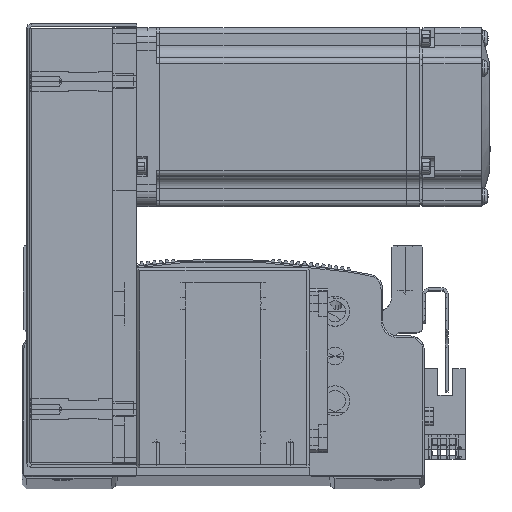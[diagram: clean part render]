
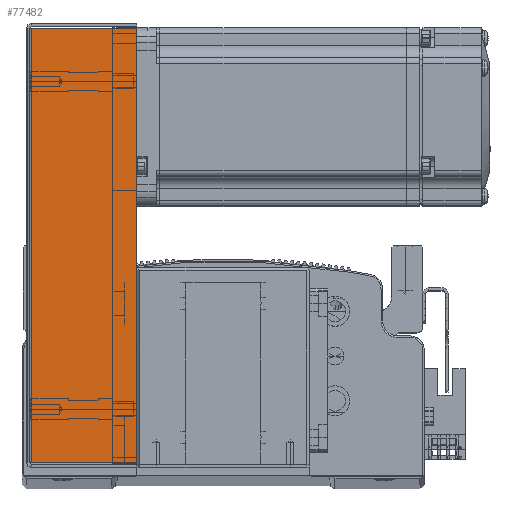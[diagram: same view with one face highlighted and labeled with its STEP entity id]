
A CAD part, top view. The second image highlights one B-rep face of the part: STEP entity #77482.
In plain terms, the highlighted planar face has unit normal (0, 0, 1).
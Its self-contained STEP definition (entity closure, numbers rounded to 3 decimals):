
#210 = VERTEX_POINT ( 'NONE', #5096 ) ;
#216 = VERTEX_POINT ( 'NONE', #5098 ) ;
#221 = VERTEX_POINT ( 'NONE', #5101 ) ;
#298 = VERTEX_POINT ( 'NONE', #1359 ) ;
#1359 = CARTESIAN_POINT ( 'NONE',  ( -72.793, 0.737, 34.5 ) ) ;
#1417 = AXIS2_PLACEMENT_3D ( 'NONE', #72044, #72088, #72075 ) ;
#5096 = CARTESIAN_POINT ( 'NONE',  ( -72.793, 36., 34.5 ) ) ;
#5098 = CARTESIAN_POINT ( 'NONE',  ( 72.793, 36., 34.5 ) ) ;
#5101 = CARTESIAN_POINT ( 'NONE',  ( 72.793, 0.737, 34.5 ) ) ;
#13717 = EDGE_CURVE ( 'NONE', #221, #216, #30329, .T. ) ;
#13745 = EDGE_CURVE ( 'NONE', #221, #298, #30364, .T. ) ;
#13759 = EDGE_CURVE ( 'NONE', #298, #210, #30363, .T. ) ;
#13785 = EDGE_CURVE ( 'NONE', #216, #210, #30311, .T. ) ;
#30309 = VECTOR ( 'NONE', #57393, 1000. ) ;
#30311 = LINE ( 'NONE', #35517, #30313 ) ;
#30313 = VECTOR ( 'NONE', #35469, 1000. ) ;
#30329 = LINE ( 'NONE', #59569, #30362 ) ;
#30345 = VECTOR ( 'NONE', #46177, 1000. ) ;
#30362 = VECTOR ( 'NONE', #59564, 1000. ) ;
#30363 = LINE ( 'NONE', #46176, #30345 ) ;
#30364 = LINE ( 'NONE', #57406, #30309 ) ;
#35469 = DIRECTION ( 'NONE',  ( -1., 0., 0. ) ) ;
#35517 = CARTESIAN_POINT ( 'NONE',  ( 0., 36., 34.5 ) ) ;
#46176 = CARTESIAN_POINT ( 'NONE',  ( -72.793, 0., 34.5 ) ) ;
#46177 = DIRECTION ( 'NONE',  ( 0., 1., 0. ) ) ;
#49724 = FACE_OUTER_BOUND ( 'NONE', #76771, .T. ) ;
#57393 = DIRECTION ( 'NONE',  ( -1., 0., 0. ) ) ;
#57406 = CARTESIAN_POINT ( 'NONE',  ( -74.5, 0.737, 34.5 ) ) ;
#59564 = DIRECTION ( 'NONE',  ( 0., 1., 0. ) ) ;
#59569 = CARTESIAN_POINT ( 'NONE',  ( 72.793, 0., 34.5 ) ) ;
#72014 = PLANE ( 'NONE',  #1417 ) ;
#72044 = CARTESIAN_POINT ( 'NONE',  ( 0., 0., 34.5 ) ) ;
#72075 = DIRECTION ( 'NONE',  ( -1., 0., 0. ) ) ;
#72088 = DIRECTION ( 'NONE',  ( 0., 0., -1. ) ) ;
#76771 = EDGE_LOOP ( 'NONE', ( #87135, #87129, #87134, #87226 ) ) ;
#77482 = ADVANCED_FACE ( 'NONE', ( #49724 ), #72014, .F. ) ;
#87129 = ORIENTED_EDGE ( 'NONE', *, *, #13717, .T. ) ;
#87134 = ORIENTED_EDGE ( 'NONE', *, *, #13785, .T. ) ;
#87135 = ORIENTED_EDGE ( 'NONE', *, *, #13745, .F. ) ;
#87226 = ORIENTED_EDGE ( 'NONE', *, *, #13759, .F. ) ;
